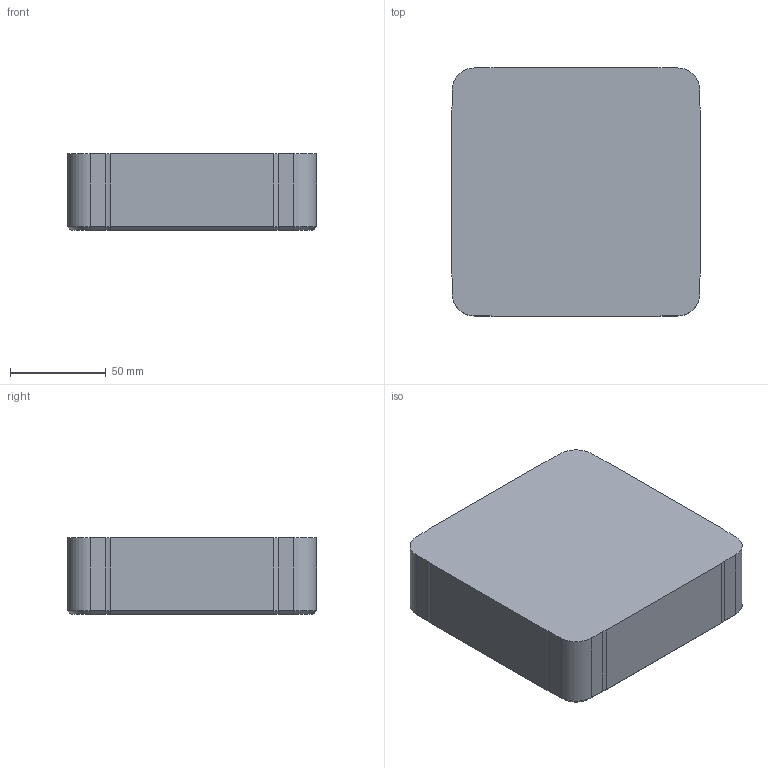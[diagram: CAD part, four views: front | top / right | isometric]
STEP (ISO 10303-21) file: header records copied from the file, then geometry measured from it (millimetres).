
FILE_DESCRIPTION (( 'STEP AP214' ), '1' );
FILE_NAME ('AS-Formeinsatz 130_130_40.STEP', '2024-02-23T09:52:17', ( '' ), ( '' ), 'SwSTEP 2.0', 'SolidWorks 2020', '' );
FILE_SCHEMA (( 'AUTOMOTIVE_DESIGN' ));
Length unit declared in the file: millimetre
Products named in the file (1): AS-Formeinsatz 130_130_40
Bounding box: 130 x 130 x 40 mm (x, y, z)
Volume: 662514.1 mm3; surface area: 55009.8 mm2
Topology: 1 solids, 1 shells, 62 faces, 148 edges, 88 vertices
Faces by surface type: plane 26, cone 20, cylinder 16
Full cylindrical faces by diameter (mm): 8.5 x4
Entity records: 1710 total; most frequent: CARTESIAN_POINT 303, DIRECTION 298, ORIENTED_EDGE 264, EDGE_CURVE 132, AXIS2_PLACEMENT_3D 111, VERTEX_POINT 84, LINE 76, VECTOR 76
